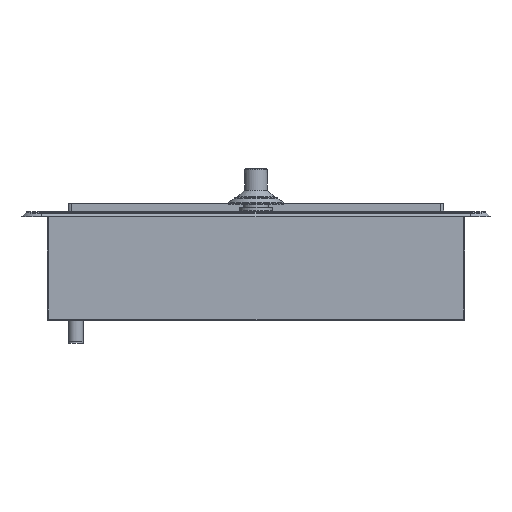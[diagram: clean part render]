
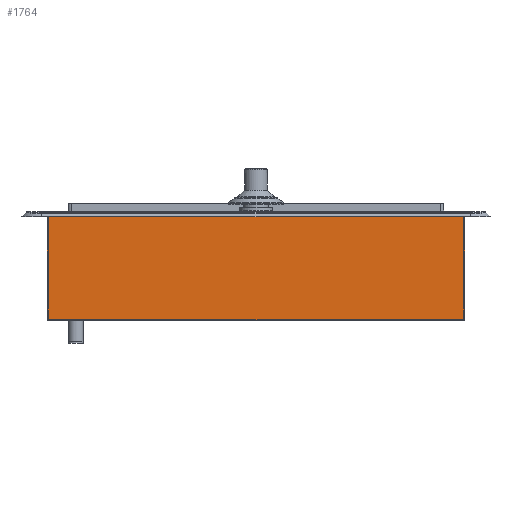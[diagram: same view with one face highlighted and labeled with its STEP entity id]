
A CAD part, front view. The second image highlights one B-rep face of the part: STEP entity #1764.
In plain terms, the highlighted planar face has unit normal (0, -1, 0).
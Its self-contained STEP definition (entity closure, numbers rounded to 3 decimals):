
#1764=ADVANCED_FACE('',(#2804),#2295,.F.);
#2295=PLANE('',#13751);
#2804=FACE_OUTER_BOUND('',#3449,.T.);
#3449=EDGE_LOOP('',(#6215,#6216,#6217,#6218));
#6215=ORIENTED_EDGE('',*,*,#9933,.T.);
#6216=ORIENTED_EDGE('',*,*,#9946,.F.);
#6217=ORIENTED_EDGE('',*,*,#9951,.F.);
#6218=ORIENTED_EDGE('',*,*,#9949,.T.);
#8307=VERTEX_POINT('',#20352);
#8309=VERTEX_POINT('',#20355);
#8312=VERTEX_POINT('',#20379);
#8314=VERTEX_POINT('',#20387);
#9933=EDGE_CURVE('',#8309,#8307,#11411,.T.);
#9946=EDGE_CURVE('',#8312,#8307,#11424,.T.);
#9949=EDGE_CURVE('',#8314,#8309,#11427,.T.);
#9951=EDGE_CURVE('',#8314,#8312,#11429,.T.);
#11411=LINE('',#20354,#12609);
#11424=LINE('',#20380,#12622);
#11427=LINE('',#20386,#12625);
#11429=LINE('',#20390,#12627);
#12609=VECTOR('',#16547,1.);
#12622=VECTOR('',#16578,1.);
#12625=VECTOR('',#16585,1.);
#12627=VECTOR('',#16589,1.);
#13751=AXIS2_PLACEMENT_3D('',#20391,#16590,#16591);
#16547=DIRECTION('',(-1.,0.,0.));
#16578=DIRECTION('',(0.,0.,1.));
#16585=DIRECTION('',(0.,0.,1.));
#16589=DIRECTION('',(-1.,0.,0.));
#16590=DIRECTION('',(0.,1.,0.));
#16591=DIRECTION('',(0.,0.,1.));
#20352=CARTESIAN_POINT('',(-353.978,494.744,0.));
#20354=CARTESIAN_POINT('',(-75.978,494.744,0.));
#20355=CARTESIAN_POINT('',(-75.978,494.744,0.));
#20379=CARTESIAN_POINT('',(-353.978,494.744,-70.5));
#20380=CARTESIAN_POINT('',(-353.978,494.744,-70.5));
#20386=CARTESIAN_POINT('',(-75.978,494.744,-70.5));
#20387=CARTESIAN_POINT('',(-75.978,494.744,-70.5));
#20390=CARTESIAN_POINT('',(-75.978,494.744,-70.5));
#20391=CARTESIAN_POINT('',(-75.978,494.744,-70.5));
